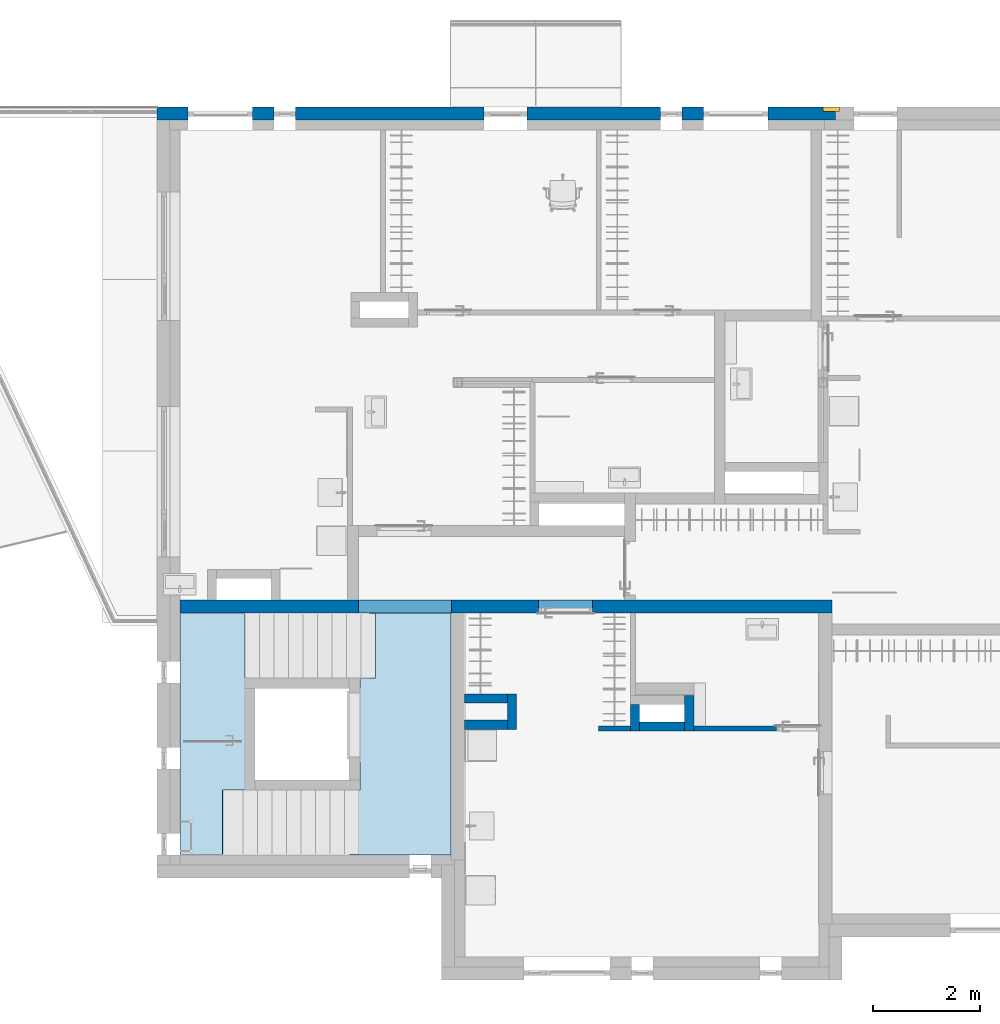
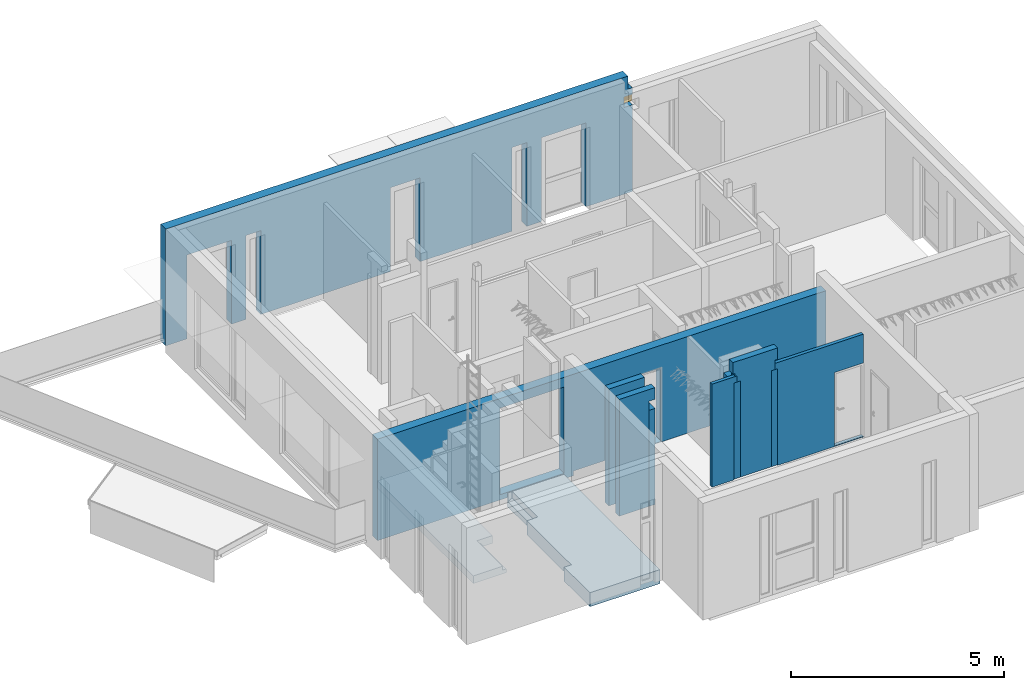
# One storey, part 8 of 42: 10 walls, 2 slabs, 1 window, 1 opening, 1 element without a shape of its own.
"""IFC2X3 building model written with IfcOpenShell, lengths in millimetres."""

from ifc_helpers import new_model, entity, si_unit, converted_unit, direction, frame, frame_2d, origin, place, context, subcontext, project, spatial, polyline, rectangle, outline, extrude, faceted_brep, source, transform, mapped, material, material_list, layer, layer_set, type_object, type_shapes, element, fill, aggregate, save


model = new_model("IFC2X3")

# Units and contexts
model_context = context("Model", 3, precision=0.01, world=origin(), true_north=direction((6.123233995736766e-17, 1.0)))
plan_context = context("Plan", 3, precision=0.01, world=origin(), true_north=direction((6.123233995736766e-17, 1.0)))
body_context = subcontext(model_context, "Body", "Model", "MODEL_VIEW")
ifc_project = project(units=[si_unit("LENGTHUNIT", "METRE", prefix="MILLI"), converted_unit("PLANEANGLEUNIT", "DEGREE", entity("IfcPlaneAngleMeasure", 0.017453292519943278), si_unit("PLANEANGLEUNIT", "RADIAN"), dimensions=[0, 0, 0, 0, 0, 0, 0]), si_unit("AREAUNIT", "SQUARE_METRE")], contexts=[model_context, plan_context])

# Site, building, storey
site_placement = place(None, origin())
site = spatial("IfcSite", under=ifc_project, at=site_placement, Name="Default", CompositionType="ELEMENT")
building_placement = place(site_placement, origin())
building = spatial("IfcBuilding", under=site, at=building_placement, CompositionType="ELEMENT")
storey_placement = place(building_placement, frame((0.0, 0.0, 9465.000076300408)))
storey = spatial("IfcBuildingStorey", under=building, at=storey_placement, Name="4K", CompositionType="ELEMENT", Elevation=9465.000076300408)

# Stair, slab
type_product = type_object("IfcTypeProduct", Name="Precast Stair:Default. Monteeritav raudbetoontrepp")
stair_placement = place(storey_placement, origin())
stair = element("IfcStair", 1, at=stair_placement, inside=storey, type_object=type_product, Name="Precast Stair:Stair", ObjectType="Precast Stair:Default. Monteeritav raudbetoontrepp", ShapeType="HALF_TURN_STAIR")
ifc_material_1 = material(Name="Temp. Betoon. Armeeritud. Kohtvalu")
slab_type_1 = type_object("IfcSlabType", Name="Monolithic Landing:Default Landing. Raudbetoon", PredefinedType="LANDING")
slab_1_placement = place(stair_placement, frame((0.0, 1905.0014695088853, 0.0)))
slab_1 = element("IfcSlab", 2, at=slab_1_placement, type_object=slab_type_1, material=ifc_material_1, Name="Precast Stair:Stair:508949 Landing 1", ObjectType="Monolithic Landing:Default Landing. Raudbetoon", PredefinedType="LANDING", context=body_context, shape_type="Brep", body=[
    faceted_brep([(902.4937255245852, 1204.9923864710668, 1564.9999618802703), (1213.7438214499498, 1204.9923864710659, 1564.9999618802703), (1213.7438214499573, 3292.4954377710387, 1564.9999618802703), (1213.7438214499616, 4492.495437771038, 1564.9999618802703), (0.0, 4492.495437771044, 1564.9999618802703), (0.0, 0.0, 1564.9999618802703), (792.4937255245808, 0.0, 1564.9999618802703), (792.4937255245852, 1201.5875000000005, 1564.9999618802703), (902.4937255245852, 1201.5875, 1564.9999618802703), (902.4937255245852, 1204.9923864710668, 1344.9999618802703), (902.4937255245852, 1201.5875, 1344.9999618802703), (1213.7438214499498, 1204.9923864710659, 1344.9999618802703), (1213.7438214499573, 3292.4954377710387, 1344.9999618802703), (1213.7438214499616, 4492.495437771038, 1344.9999618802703), (0.0, 4492.495437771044, 1344.9999618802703), (0.0, 0.0, 1344.9999618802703), (892.4937255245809, 0.0, 1344.9999618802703), (892.4937255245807, 0.0, 1454.9999618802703), (792.4937255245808, 0.0, 1454.9999618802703), (892.4937255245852, 1201.5875, 1344.9999618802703), (892.4937255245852, 1201.5875, 1454.9999618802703), (792.4937255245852, 1201.5875000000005, 1454.9999618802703)], [[[0, 1, 2, 3, 4, 5, 6, 7, 8]], [[9, 0, 8, 10]], [[1, 0, 9, 11]], [[2, 1, 11, 12]], [[4, 3, 13, 14]], [[5, 4, 14, 15]], [[5, 15, 16, 17, 18, 6]], [[11, 9, 10, 19, 16, 15, 14, 13, 12]], [[20, 21, 18, 17]], [[7, 21, 20, 19, 10, 8]], [[21, 7, 6, 18]], [[20, 17, 16, 19]], [[3, 2, 12, 13]]]),
])
aggregate(stair, [slab_1])

# Slab
ifc_material_2 = material(Name="_K. Betoon. Armeeritud. Kohtvalu")
ifc_material_3 = material(Name="_K. Soojustus. Mineraalvill")
ifc_material_4 = material(Name="_K. Soojustus. EPS")
ifc_material_5 = material(Name="_K. Betoon. Armeeritud. Monteeritav")
ifc_material_list = material_list([ifc_material_2, ifc_material_3, ifc_material_4, ifc_material_5])
slab_type_2 = type_object("IfcSlabType", Name="Floor:VL-03", PredefinedType="FLOOR")
slab_2_placement = place(storey_placement, origin())
element("IfcSlab", 3, at=slab_2_placement, inside=storey, type_object=slab_type_2, material=ifc_material_list, Name="Floor:VL-03", ObjectType="Floor:VL-03", PredefinedType="FLOOR", context=body_context, shape_type="Brep", body=[
    faceted_brep([(5050.0, 6404.999959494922, -420.0), (5050.0, 1900.0, -420.0), (3154.9935349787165, 1900.0, -420.0), (3154.993534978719, 3109.993882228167, -420.0), (3349.993534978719, 3109.9938822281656, -420.0), (3349.993534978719, 5189.998421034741, -420.0), (3529.993534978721, 5189.998421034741, -420.0), (3529.993534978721, 6404.999959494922, -420.0), (5050.0, 1900.0, -20.0), (5050.0, 6404.999959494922, -20.0), (3529.993534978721, 6404.999959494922, -20.0), (3529.993534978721, 6397.496907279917, -20.0), (3643.7438214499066, 6397.496907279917, -20.0), (3643.743821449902, 5197.496907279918, -20.0), (3529.993534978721, 5197.496907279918, -20.0), (3529.993534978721, 5189.998421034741, -20.0), (3349.993534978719, 5189.998421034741, -20.0), (3349.993534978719, 3109.9938822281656, -20.0), (3154.993534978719, 3109.993882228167, -20.0), (3154.9935349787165, 1900.0, -20.0), (3529.993534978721, 5197.496907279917, -273.2833085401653), (3529.993534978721, 6397.496907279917, -273.2833085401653), (3643.743821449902, 5197.496907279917, -199.08816105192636), (3643.7438214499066, 6397.496907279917, -199.08816105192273)], [[[0, 1, 2, 3, 4, 5, 6, 7]], [[8, 9, 10, 11, 12, 13, 14, 15, 16, 17, 18, 19]], [[1, 0, 9, 8]], [[2, 1, 8, 19]], [[5, 4, 17, 16]], [[0, 7, 10, 9]], [[3, 2, 19, 18]], [[4, 3, 18, 17]], [[6, 5, 16, 15]], [[7, 6, 15, 14, 20, 21, 11, 10]], [[22, 23, 21, 20]], [[23, 12, 11, 21]], [[13, 22, 20, 14]], [[23, 22, 13, 12]]]),
])

# Wall
ifc_material_6 = material(Name="_K. Müüritis. Väikeplokk. Betoon-õõnesplokk")
ifc_layer_1 = layer(ifc_material_6, 240.0)
ifc_layer_set_1 = layer_set([ifc_layer_1], Name="Basic Wall:Columbia 240mm")
wall_type_1 = type_object("IfcWallType", Name="Basic Wall:Columbia 240mm", PredefinedType="STANDARD", material=ifc_layer_set_1)
wall_1_placement = place(storey_placement, frame((12144.997197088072, 6524.999959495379, -155.0), z_axis=(0.0, 0.0, 1.0), x_axis=(-1.0, 0.0, 0.0)))
element("IfcWall", 4, at=wall_1_placement, inside=storey, type_object=wall_type_1, Name="Basic Wall:Columbia 240mm", ObjectType="Basic Wall:Columbia 240mm", context=body_context, shape_type="Brep", body=[
    faceted_brep([(244.9971970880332, -120.0, 2904.9999237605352), (0.0, -120.0, 2904.9999237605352), (0.0, -120.0, 135.0), (6839.99933331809, -120.0, 135.0), (6839.99933331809, -120.0, 0.0), (12144.997197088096, -120.0, 0.0), (12144.997197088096, -120.0, 135.0), (12144.997197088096, -120.0, 154.99992369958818), (12144.997197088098, -120.0, 2904.9999237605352), (6845.00213623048, -120.0, 2904.999923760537), (7090.0, -120.0, 2630.999923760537), (8824.997197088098, -120.0, 2630.999923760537), (8824.997197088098, -120.0, 155.0), (7090.0, -120.0, 155.0), (5464.997197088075, -120.0, 2255.0), (5464.997197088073, -120.0, 155.0), (4464.997197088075, -120.0, 155.0), (4464.997197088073, -120.0, 2255.0), (8824.997197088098, 120.0, 2630.999923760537), (7090.0, 120.0, 2630.999923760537), (7090.0, 120.0, 155.0), (8824.997197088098, 120.0, 155.0), (5464.997197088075, 120.0, 155.0), (5464.997197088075, 120.0, 2255.0), (4464.997197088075, 120.0, 2255.0), (4464.997197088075, 120.0, 155.0), (12144.997197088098, 120.0, 2904.9999237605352), (12144.997197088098, 120.0, 154.99992369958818), (12144.997197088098, 120.0, 0.0), (6839.999333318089, 120.0, 0.0), (6839.999333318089, 120.0, 135.0), (3754.997197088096, 120.0, 135.0), (3662.9971970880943, 120.0, 135.0), (250.0036621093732, 120.0, 135.0), (0.0, 120.0, 135.0), (0.0, 120.0, 2904.9999237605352), (244.99719708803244, 120.0, 2904.999923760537), (3662.9971970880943, 120.0, 2904.999923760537), (3754.997197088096, 120.0, 2904.999923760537), (6845.002136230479, 120.0, 2904.9999237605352)], [[[0, 1, 2, 3, 4, 5, 6, 7, 8, 9], [10, 11, 12, 13], [14, 15, 16, 17]], [[18, 19, 20, 21], [22, 23, 24, 25], [26, 27, 28, 29, 30, 31, 32, 33, 34, 35, 36, 37, 38, 39]], [[28, 5, 4, 29]], [[1, 35, 34, 2]], [[5, 28, 27, 26, 8, 7, 6]], [[35, 1, 0, 36]], [[8, 26, 39, 9]], [[0, 9, 39, 38, 37, 36]], [[10, 19, 18, 11]], [[12, 21, 20, 13]], [[19, 10, 13, 20]], [[11, 18, 21, 12]], [[22, 15, 14, 23]], [[15, 22, 25, 16]], [[16, 25, 24, 17]], [[23, 14, 17, 24]], [[30, 3, 2, 34, 33, 32, 31]], [[3, 30, 29, 4]]], outer=[[True, False, False], [False, False, True], [True], [True], [True], [True], [True], [True], [True], [True], [True], [True], [True], [True], [True], [True], [True], [True]]),
])

# Wall, opening, window
ifc_material_7 = material(Name="_K. Väisviimistlus. Krohv. Valge")
ifc_layer_2 = layer(ifc_material_7, 10.0)
ifc_material_8 = material(Name="_K. Soojustus. EPS Silver")
ifc_layer_3 = layer(ifc_material_8, 230.0)
ifc_layer_set_2 = layer_set([ifc_layer_2, ifc_layer_3], Name="Basic Wall:VS-01")
wall_type_2 = type_object("IfcWallType", Name="Basic Wall:VS-01", PredefinedType="STANDARD", material=ifc_layer_set_2)
wall_2_placement = place(storey_placement, frame((-430.0, 15710.0, 0.0)))
wall_2 = element("IfcWall", 5, at=wall_2_placement, inside=storey, type_object=wall_type_2, Name="Basic Wall:VS-01", ObjectType="Basic Wall:VS-01", context=body_context, shape_type="Brep", body=[
    faceted_brep([(12520.0, -120.0, 3345.999923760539), (11780.0, -120.0, 3345.999923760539), (11380.0, -120.0, 3345.999923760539), (10180.0, -120.0, 3345.999923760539), (9380.0, -120.0, 3345.999923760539), (8660.0, -120.0, 3345.999923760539), (6660.0, -120.0, 3345.999923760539), (5055.0, -120.0, 3345.999923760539), (4655.0, -120.0, 3345.999923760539), (2980.0, -120.0, 3345.999923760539), (2580.0, -120.0, 3345.999923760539), (240.0, -120.0, 3345.999923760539), (0.0, -120.0, 3345.999923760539), (0.0, -120.0, 0.0), (230.0, -120.0, 0.0), (580.0, -120.0, 0.0), (580.0, -120.0, 2400.0), (1780.0, -120.0, 2400.0), (1780.0, -120.0, 0.0), (2180.0, -120.0, 0.0), (2180.0, -120.0, 2400.0), (2580.0, -120.0, 2400.0), (2580.0, -120.0, 0.0), (6090.0, -120.0, 0.0), (6090.0, -120.0, 2400.0), (6890.0, -120.0, 2400.0), (6890.0, -120.0, 0.0), (9380.0, -120.0, 0.0), (9380.0, -120.0, 2400.0), (9780.0, -120.0, 2400.0), (9780.0, -120.0, 0.0), (10180.0, -120.0, 0.0), (10180.0, -120.0, 2400.0), (11380.0, -120.0, 2400.0), (11380.0, -120.0, 0.0), (12430.0, -120.0, 0.0), (12640.0, -120.0, 0.0), (12640.0, -120.0, 2480.0), (12430.0, -120.0, 2480.0), (12410.0, -120.0, 2480.0), (12410.0, -120.0, 2780.0), (12430.0, -120.0, 2780.0), (12640.0, -120.0, 2780.0), (12640.0, -120.0, 2970.3740915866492), (12640.0, -120.0, 2975.000068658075), (12520.0, -120.0, 2975.000068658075), (0.0, 120.0, 3345.999923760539), (2580.0, 120.0, 3345.999923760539), (2980.0, 120.0, 3345.999923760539), (4655.0, 120.0, 3345.999923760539), (5055.0, 120.0, 3345.999923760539), (6660.0, 120.0, 3345.999923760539), (8660.0, 120.0, 3345.999923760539), (9380.0, 120.0, 3345.999923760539), (10180.0, 120.0, 3345.999923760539), (11380.0, 120.0, 3345.999923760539), (11780.0, 120.0, 3345.999923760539), (12520.0, 120.0, 3345.999923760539), (12520.0, 120.0, 2975.000068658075), (12640.0, 120.0, 2975.000068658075), (12640.0, 120.0, 2970.3740915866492), (12640.0, 120.0, 2780.0), (12410.0, 120.0, 2780.0), (12410.0, 120.0, 2480.0), (12640.0, 120.0, 2480.0), (12640.0, 120.0, 0.0), (11380.0, 120.0, 0.0), (11380.0, 120.0, 2400.0), (10180.0, 120.0, 2400.0), (10180.0, 120.0, 0.0), (9780.0, 120.0, 0.0), (9780.0, 120.0, 2400.0), (9380.0, 120.0, 2400.0), (9380.0, 120.0, 0.0), (6890.0, 120.0, 0.0), (6890.0, 120.0, 2400.0), (6090.0, 120.0, 2400.0), (6090.0, 120.0, 0.0), (2580.0, 120.0, 0.0), (2580.0, 120.0, 2400.0), (2180.0, 120.0, 2400.0), (2180.0, 120.0, 0.0), (1780.0, 120.0, 0.0), (1780.0, 120.0, 2400.0), (580.0, 120.0, 2400.0), (580.0, 120.0, 0.0), (0.0, 120.0, 0.0), (0.0, 120.0, 155.0), (0.0, -110.0, 0.0), (0.0, 110.0, 0.0), (580.0, 40.0, 0.0), (580.0, 30.0, 0.0), (2580.0, 40.0, 0.0), (2580.0, 30.0, 0.0), (2180.0, 30.0, 0.0), (2180.0, 40.0, 0.0), (6890.0, 40.0, 0.0), (6890.0, 30.0, 0.0), (6090.0, 30.0, 0.0), (6090.0, 40.0, 0.0), (9780.0, 40.0, 0.0), (9780.0, 30.0, 0.0), (9380.0, 30.0, 0.0), (9380.0, 40.0, 0.0), (1780.0, 40.0, 0.0), (1780.0, 30.0, 0.0), (11380.0, 40.0, 0.0), (11380.0, 30.0, 0.0), (10180.0, 30.0, 0.0), (10180.0, 40.0, 0.0), (12640.0, 110.0, 2975.000068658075)], [[[0, 1, 2, 3, 4, 5, 6, 7, 8, 9, 10, 11, 12, 13, 14, 15, 16, 17, 18, 19, 20, 21, 22, 23, 24, 25, 26, 27, 28, 29, 30, 31, 32, 33, 34, 35, 36, 37, 38, 39, 40, 41, 42, 43, 44, 45]], [[46, 47, 48, 49, 50, 51, 52, 53, 54, 55, 56, 57, 58, 59, 60, 61, 62, 63, 64, 65, 66, 67, 68, 69, 70, 71, 72, 73, 74, 75, 76, 77, 78, 79, 80, 81, 82, 83, 84, 85, 86, 87]], [[15, 14, 13, 88, 89, 86, 85, 90, 91]], [[12, 11, 10, 9, 8, 7, 6, 5, 4, 3, 2, 1, 0, 57, 56, 55, 54, 53, 52, 51, 50, 49, 48, 47, 46]], [[21, 79, 78, 92, 93, 22]], [[79, 21, 20, 80]], [[80, 20, 19, 94, 95, 81]], [[25, 75, 74, 96, 97, 26]], [[75, 25, 24, 76]], [[76, 24, 23, 98, 99, 77]], [[29, 71, 70, 100, 101, 30]], [[71, 29, 28, 72]], [[72, 28, 27, 102, 103, 73]], [[17, 83, 82, 104, 105, 18]], [[83, 17, 16, 84]], [[84, 16, 15, 91, 90, 85]], [[33, 67, 66, 106, 107, 34]], [[67, 33, 32, 68]], [[68, 32, 31, 108, 109, 69]], [[12, 46, 87, 86, 89, 88, 13]], [[63, 39, 38, 37, 64]], [[40, 62, 61, 42, 41]], [[39, 63, 62, 40]], [[36, 65, 64, 37]], [[45, 44, 110, 59, 58]], [[57, 0, 45, 58]], [[59, 110, 44, 43, 42, 61, 60]], [[19, 18, 105, 104, 82, 81, 95, 94]], [[22, 93, 92, 78, 77, 99, 98, 23]], [[26, 97, 96, 74, 73, 103, 102, 27]], [[30, 101, 100, 70, 69, 109, 108, 31]], [[65, 36, 35, 34, 107, 106, 66]]]),
])
opening_placement = place(wall_2_placement, frame((12410.0, -120.0, 2480.0)))
opening = element("IfcOpeningElement", 6, at=opening_placement, cuts=wall_2, Name="HR_Louver_Rectangle_v1:300x300:1", ObjectType="Opening", context=body_context, shape_type="SweptSolid", body=[
    extrude(rectangle(XDim=300.0000000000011, YDim=299.99999999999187, at=frame_2d((149.99999999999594, 150.00000000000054), x_axis=(0.0, 1.0))), frame((0.0, 0.0, 0.0), z_axis=(0.0, 1.0, 0.0), x_axis=(0.0, 0.0, 1.0)), (0.0, 0.0, 1.0), 240.0),
])
ifc_material_9 = material(Name="_K. Metall. Plekk. Värvitud. Valge")
window_style = type_object("IfcWindowStyle", Name="HR_Louver_Rectangle_v1:300x300", ConstructionType="NOTDEFINED", OperationType="NOTDEFINED", ParameterTakesPrecedence=False, Sizeable=False, material=ifc_material_9)
shared_shape = source(origin(), body_context, "Body", "SweptSolid", [
    extrude(outline(polyline([(-35.34119409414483, 1.0), (-57.145910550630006, -19.60471645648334), (-55.77226278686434, -21.058364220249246), (-34.54571762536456, -1.0), (35.3411940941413, -1.0), (57.14591055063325, 19.604716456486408), (55.772262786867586, 21.058364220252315), (34.54571762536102, 1.0), (-35.34119409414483, 1.0)])), frame((2.0, 215.0, 119.0), z_axis=(-1.0, 0.0, 0.0), x_axis=(0.0, 0.6868238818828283, -0.7268238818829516)), (0.0, 0.0, -1.0), 296.0),
    extrude(outline(polyline([(-35.34119409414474, 1.0), (-57.1459105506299, -19.60471645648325), (-55.77226278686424, -21.058364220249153), (-34.54571762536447, -1.0), (35.34119409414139, -1.0), (57.145910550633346, 19.604716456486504), (55.772262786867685, 21.058364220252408), (34.54571762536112, 1.0), (-35.34119409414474, 1.0)])), frame((2.0, 215.0, 181.0), z_axis=(-1.0, 0.0, 0.0), x_axis=(0.0, 0.6868238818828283, -0.7268238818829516)), (0.0, 0.0, -1.0), 296.0),
    extrude(outline(polyline([(-35.34119409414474, 1.0), (-57.1459105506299, -19.60471645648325), (-55.77226278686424, -21.058364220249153), (-34.54571762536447, -1.0), (35.34119409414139, -1.0), (57.145910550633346, 19.604716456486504), (55.772262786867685, 21.058364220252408), (34.54571762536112, 1.0), (-35.34119409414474, 1.0)])), frame((2.0, 215.0, 57.0), z_axis=(-1.0, 0.0, 0.0), x_axis=(0.0, 0.6868238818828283, -0.7268238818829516)), (0.0, 0.0, -1.0), 296.0),
    extrude(outline(polyline([(-35.34119409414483, 1.0), (-57.145910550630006, -19.60471645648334), (-55.77226278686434, -21.058364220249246), (-34.54571762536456, -1.0), (35.3411940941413, -1.0), (57.14591055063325, 19.604716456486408), (55.772262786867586, 21.058364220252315), (34.54571762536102, 1.0), (-35.34119409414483, 1.0)])), frame((2.0, 215.0, 243.0), z_axis=(-1.0, 0.0, 0.0), x_axis=(0.0, 0.6868238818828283, -0.7268238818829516)), (0.0, 0.0, -1.0), 295.99999999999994),
    extrude(outline(polyline([(-200.0, -200.0), (200.0, -200.0), (200.0, 200.0), (-200.0, 200.0), (-200.0, -200.0)]), holes=[polyline([(-148.0, -148.0), (-148.0, 148.0), (148.0, 148.0), (148.0, -148.0), (-148.0, -148.0)])]), frame((150.0, 240.0, 150.0), z_axis=(0.0, 1.0, 0.0), x_axis=(1.0, 0.0, 0.0)), (0.0, 0.0, 1.0), 1.9999999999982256),
    extrude(outline(polyline([(-150.0, -150.0), (150.0, -150.0), (150.0, 150.0), (-150.0, 150.0), (-150.0, -150.0)]), holes=[polyline([(148.0, -148.0), (-148.0, -148.0), (-148.0, 148.0), (148.0, 148.0), (148.0, -148.0)])]), frame((150.0, 160.0, 150.0), z_axis=(0.0, 1.0, 0.0), x_axis=(0.0, 0.0, -1.0)), (0.0, 0.0, 1.0), 79.99999999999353),
])
type_shapes(window_style, [shared_shape])
window_placement = place(opening_placement, origin())
window = element("IfcWindow", 7, at=window_placement, inside=storey, type_object=window_style, material=ifc_material_9, Name="HR_Louver_Rectangle_v1:300x300", ObjectType="HR_Louver_Rectangle_v1:300x300", OverallHeight=299.99999999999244, OverallWidth=300.0000000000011, context=body_context, shape_type="MappedRepresentation", body=[
    mapped(shared_shape, transform((0.0, 0.0, 0.0), scale=1.0)),
])
fill(opening, window)

# Walls
ifc_material_10 = material(Name="_K. Ehitusplaat. Kipsplaat. Erikõva")
ifc_layer_4 = layer(ifc_material_10, 13.000000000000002)
ifc_layer_5 = layer(ifc_material_3, 66.0)
ifc_layer_6 = layer(ifc_material_10, 13.000000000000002)
ifc_layer_set_3 = layer_set([ifc_layer_4, ifc_layer_5, ifc_layer_6], Name="Basic Wall:SS-401")
wall_type_3 = type_object("IfcWallType", Name="Basic Wall:SS-401", PredefinedType="STANDARD", material=ifc_layer_set_3)
wall_3_placement = place(storey_placement, frame((11894.993534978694, 4256.0, -20.0), z_axis=(0.0, 0.0, 1.0), x_axis=(-1.0, 0.0, 0.0)))
element("IfcWall", 8, at=wall_3_placement, inside=storey, type_object=wall_type_3, Name="Basic Wall:SS-401", ObjectType="Basic Wall:SS-401", context=body_context, shape_type="Brep", body=[
    faceted_brep([(0.0, -46.0, 0.0), (2324.9935349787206, -46.0, 0.0), (2324.9935349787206, -46.0, 2769.9999237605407), (2409.9935349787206, -46.0, 2769.9999237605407), (2409.9935349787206, -46.0, 2946.0), (0.0, -46.0, 2946.0), (0.0, -46.0, 2120.0), (790.0, -46.0, 2120.0), (790.0, -46.0, 20.0), (0.0, -46.0, 20.0), (2324.99353497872, 46.0, 0.0), (0.0, 46.0, 0.0), (0.0, 46.0, 20.0), (790.0, 46.0, 20.0), (790.0, 46.0, 2120.0), (0.0, 46.0, 2120.0), (0.0, 46.0, 2946.0), (2409.99353497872, 46.0, 2946.0), (2409.99353497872, 46.0, 2769.9999237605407), (2324.99353497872, 46.0, 2769.9999237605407), (2324.99353497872, 46.0, 19.999923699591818)], [[[0, 1, 2, 3, 4, 5, 6, 7, 8, 9]], [[10, 11, 12, 13, 14, 15, 16, 17, 18, 19, 20]], [[1, 0, 11, 10]], [[5, 4, 17, 16]], [[11, 0, 9, 12]], [[8, 13, 12, 9]], [[13, 8, 7, 14]], [[14, 7, 6, 15]], [[17, 4, 3, 18]], [[18, 3, 2, 19]], [[1, 10, 20, 19, 2]], [[5, 16, 15, 6]]]),
])
wall_4_placement = place(storey_placement, frame((8475.0, 4256.0, -20.0), z_axis=(0.0, 0.0, 1.0), x_axis=(-1.0, 0.0, 0.0)))
element("IfcWall", 9, at=wall_4_placement, inside=storey, type_object=wall_type_3, Name="Basic Wall:SS-401", ObjectType="Basic Wall:SS-401", context=body_context, shape_type="Brep", body=[
    faceted_brep([(85.0, -46.0, 0.0), (685.0, -46.0, 0.0), (685.0, -46.0, 2946.0), (0.0, -46.0, 2946.0), (0.0, -46.0, 2769.9999237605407), (85.0, -46.0, 2769.9999237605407), (85.0, 46.0, 0.0), (85.0, 46.0, 19.999923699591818), (85.0, 46.0, 2769.9999237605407), (0.0, 46.0, 2769.9999237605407), (0.0, 46.0, 2946.0), (685.0, 46.0, 2946.0), (685.0, 46.0, 0.0)], [[[0, 1, 2, 3, 4, 5]], [[6, 7, 8, 9, 10, 11, 12]], [[1, 0, 6, 12]], [[2, 1, 12, 11]], [[3, 2, 11, 10]], [[4, 3, 10, 9]], [[4, 9, 8, 5]], [[0, 5, 8, 7, 6]]]),
])
ifc_layer_7 = layer(ifc_material_7, 10.0)
ifc_material_11 = material(Name="_K. Müüritis. Väikeplokk. Kergkruusplokk")
ifc_layer_8 = layer(ifc_material_11, 150.0)
ifc_layer_9 = layer(ifc_material_7, 10.0)
ifc_layer_set_4 = layer_set([ifc_layer_7, ifc_layer_8, ifc_layer_9], Name="Basic Wall:SS-03. Šahti sein")
wall_type_4 = type_object("IfcWallType", Name="Basic Wall:SS-03. Šahti sein", PredefinedType="STANDARD", material=ifc_layer_set_4)
wall_5_placement = place(storey_placement, frame((9485.0, 4870.0, -20.0), z_axis=(0.0, 0.0, 1.0), x_axis=(0.0, -1.0, 0.0)))
element("IfcWall", 10, at=wall_5_placement, inside=storey, type_object=wall_type_4, Name="Basic Wall:SS-03. Šahti sein", ObjectType="Basic Wall:SS-03. Šahti sein", context=body_context, shape_type="Brep", body=[
    faceted_brep([(660.0, -85.0, 2769.999923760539), (490.0, -85.0, 2769.999923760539), (0.0, -85.0, 2769.999923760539), (0.0, -85.0, 0.0), (170.0, -85.0, 0.0), (490.0, -85.0, 0.0), (490.0, -85.0, 20.0), (660.0, -85.0, 20.0), (0.0, 85.0, 2769.999923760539), (568.0, 85.0, 2769.999923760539), (660.0, 85.0, 2769.999923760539), (660.0, 85.0, 20.0), (490.0, 85.0, 20.0), (490.0, 85.0, 0.0), (0.0, 85.0, 0.0), (660.0, 0.0, 2769.999923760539), (660.0, 20.0, 2769.999923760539)], [[[0, 1, 2, 3, 4, 5, 6, 7]], [[8, 9, 10, 11, 12, 13, 14]], [[2, 1, 0, 15, 16, 10, 9, 8]], [[7, 6, 12, 11]], [[12, 6, 5, 13]], [[7, 11, 10, 16, 15, 0]], [[2, 8, 14, 3]], [[5, 4, 3, 14, 13]]]),
])
wall_6_placement = place(storey_placement, frame((8475.0, 4700.0, -20.0), z_axis=(0.0, 0.0, 1.0), x_axis=(0.0, -1.0, 0.0)))
element("IfcWall", 11, at=wall_6_placement, inside=storey, type_object=wall_type_4, Name="Basic Wall:SS-03. Šahti sein", ObjectType="Basic Wall:SS-03. Šahti sein", context=body_context, shape_type="Brep", body=[
    faceted_brep([(490.0, -85.0, 2769.999923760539), (398.0, -85.0, 2769.999923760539), (0.0, -85.0, 2769.999923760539), (0.0, -85.0, 0.0), (320.0, -85.0, 0.0), (320.0, -85.0, 20.0), (490.0, -85.0, 20.0), (0.0, 85.0, 2769.999923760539), (320.0, 85.0, 2769.999923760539), (490.0, 85.0, 2769.999923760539), (490.0, 85.0, 20.0), (320.0, 85.0, 20.0), (320.0, 85.0, 0.0), (0.0, 85.0, 0.0), (490.0, -52.0, 2769.999923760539), (490.0, 0.0, 2769.999923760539)], [[[0, 1, 2, 3, 4, 5, 6]], [[7, 8, 9, 10, 11, 12, 13]], [[2, 1, 0, 14, 15, 9, 8, 7]], [[6, 5, 11, 10]], [[11, 5, 4, 12]], [[6, 10, 9, 15, 14, 0]], [[2, 7, 13, 3]], [[4, 3, 13, 12]]]),
])
wall_7_placement = place(storey_placement, frame((8358.0, 4295.0, 0.0)))
element("IfcWall", 12, at=wall_7_placement, inside=storey, type_object=wall_type_4, Name="Basic Wall:SS-03. Šahti sein", ObjectType="Basic Wall:SS-03. Šahti sein", context=body_context, shape_type="Brep", body=[
    faceted_brep([(202.0, -85.0, 0.0), (1042.0, -85.0, 0.0), (1042.0, -85.0, 2749.999923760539), (1147.0, -85.0, 2749.999923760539), (1147.0, -85.0, 3014.9999237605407), (1212.0, -85.0, 3014.9999237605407), (1212.0, -85.0, 3346.0), (1042.0, -85.0, 3346.0), (170.0, -85.0, 3346.0), (0.0, -85.0, 3346.0), (0.0, -85.0, 3014.9999237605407), (65.0, -85.0, 3014.9999237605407), (65.0, -85.0, 2749.999923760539), (202.0, -85.0, 2749.999923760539), (202.0, 85.0, 0.0), (202.0, 85.0, 2749.999923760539), (65.0, 85.0, 2749.999923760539), (65.0, 85.0, 3014.9999237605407), (0.0, 85.0, 3014.9999237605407), (0.0, 85.0, 3325.999923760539), (0.0, 85.0, 3346.0), (170.0, 85.0, 3346.0), (1042.0, 85.0, 3346.0), (1212.0, 85.0, 3346.0), (1212.0, 85.0, 3325.999923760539), (1212.0, 85.0, 3014.9999237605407), (1147.0, 85.0, 3014.9999237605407), (1147.0, 85.0, 2749.999923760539), (1042.0, 85.0, 2749.999923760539), (1042.0, 85.0, 0.0)], [[[0, 1, 2, 3, 4, 5, 6, 7, 8, 9, 10, 11, 12, 13]], [[14, 15, 16, 17, 18, 19, 20, 21, 22, 23, 24, 25, 26, 27, 28, 29]], [[1, 0, 14, 29]], [[9, 8, 7, 6, 23, 22, 21, 20]], [[12, 16, 15, 13]], [[0, 13, 15, 14]], [[27, 3, 2, 28]], [[2, 1, 29, 28]], [[12, 11, 17, 16]], [[10, 18, 17, 11]], [[10, 9, 20, 19, 18]], [[4, 3, 27, 26]], [[25, 5, 4, 26]], [[5, 25, 24, 23, 6]]]),
])
wall_8_placement = place(storey_placement, frame((5299.995060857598, 4815.0, 0.0)))
element("IfcWall", 13, at=wall_8_placement, inside=storey, type_object=wall_type_4, Name="Basic Wall:SS-03. Šahti sein", ObjectType="Basic Wall:SS-03. Šahti sein", context=body_context, shape_type="Brep", body=[
    faceted_brep([(0.0, -85.0, 0.0), (800.0021362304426, -85.0, 0.0), (800.0021362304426, -85.0, 3014.9999237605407), (970.0021362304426, -85.0, 3014.9999237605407), (970.0021362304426, -85.0, 3325.999923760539), (970.0021362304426, -85.0, 3346.0), (800.0021362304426, -85.0, 3346.0), (0.0, -85.0, 3346.0), (0.0, 85.0, 0.0), (0.0, 85.0, 3346.0), (800.002136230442, 85.0, 3346.0), (970.002136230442, 85.0, 3346.0), (970.002136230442, 85.0, 3014.9999237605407), (800.002136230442, 85.0, 3014.9999237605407), (800.002136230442, 85.0, 2749.999923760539), (800.002136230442, 85.0, 0.0)], [[[0, 1, 2, 3, 4, 5, 6, 7]], [[8, 9, 10, 11, 12, 13, 14, 15]], [[1, 0, 8, 15]], [[7, 6, 5, 11, 10, 9]], [[0, 7, 9, 8]], [[12, 3, 2, 13]], [[2, 1, 15, 14, 13]], [[3, 12, 11, 5, 4]]]),
])
wall_9_placement = place(storey_placement, frame((6184.997197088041, 4900.0, -20.0), z_axis=(0.0, 0.0, 1.0), x_axis=(0.0, -1.0, 0.0)))
element("IfcWall", 14, at=wall_9_placement, inside=storey, type_object=wall_type_4, Name="Basic Wall:SS-03. Šahti sein", ObjectType="Basic Wall:SS-03. Šahti sein", context=body_context, shape_type="Brep", body=[
    faceted_brep([(660.0, -85.0, 2769.999923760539), (0.0, -85.0, 2769.999923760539), (0.0, -85.0, 20.0), (170.0, -85.0, 20.0), (170.0, -85.0, 0.0), (490.0, -85.0, 0.0), (490.0, -85.0, 20.0), (660.0, -85.0, 20.0), (0.0, 85.0, 2769.999923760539), (660.0, 85.0, 2769.999923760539), (660.0, 85.0, 20.0), (490.0, 85.0, 20.0), (490.0, 85.0, 0.0), (170.0, 85.0, 0.0), (170.0, 85.0, 20.0), (0.0, 85.0, 20.0)], [[[0, 1, 2, 3, 4, 5, 6, 7]], [[8, 9, 10, 11, 12, 13, 14, 15]], [[1, 0, 9, 8]], [[15, 14, 3, 2]], [[3, 14, 13, 4]], [[2, 1, 8, 15]], [[7, 6, 11, 10]], [[11, 6, 5, 12]], [[0, 7, 10, 9]], [[5, 4, 13, 12]]]),
])
wall_10_placement = place(storey_placement, frame((5299.995060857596, 4325.0, 0.0)))
element("IfcWall", 15, at=wall_10_placement, inside=storey, type_object=wall_type_4, Name="Basic Wall:SS-03. Šahti sein", ObjectType="Basic Wall:SS-03. Šahti sein", context=body_context, shape_type="Brep", body=[
    faceted_brep([(0.0, -85.0, 0.0), (800.0021362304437, -85.0, 0.0), (800.0021362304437, -85.0, 2749.999923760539), (800.0021362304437, -85.0, 3014.9999237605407), (970.0021362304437, -85.0, 3014.9999237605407), (970.0021362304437, -85.0, 3346.0), (800.0021362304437, -85.0, 3346.0), (0.0, -85.0, 3346.0), (0.0, 85.0, 0.0), (0.0, 85.0, 3346.0), (800.0021362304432, 85.0, 3346.0), (970.0021362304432, 85.0, 3346.0), (970.0021362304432, 85.0, 3325.999923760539), (970.0021362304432, 85.0, 3014.9999237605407), (800.0021362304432, 85.0, 3014.9999237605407), (800.0021362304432, 85.0, 0.0)], [[[0, 1, 2, 3, 4, 5, 6, 7]], [[8, 9, 10, 11, 12, 13, 14, 15]], [[1, 0, 8, 15]], [[7, 6, 5, 11, 10, 9]], [[0, 7, 9, 8]], [[13, 4, 3, 14]], [[3, 2, 1, 15, 14]], [[5, 4, 13, 12, 11]]]),
])

save(model, "model.ifc")
